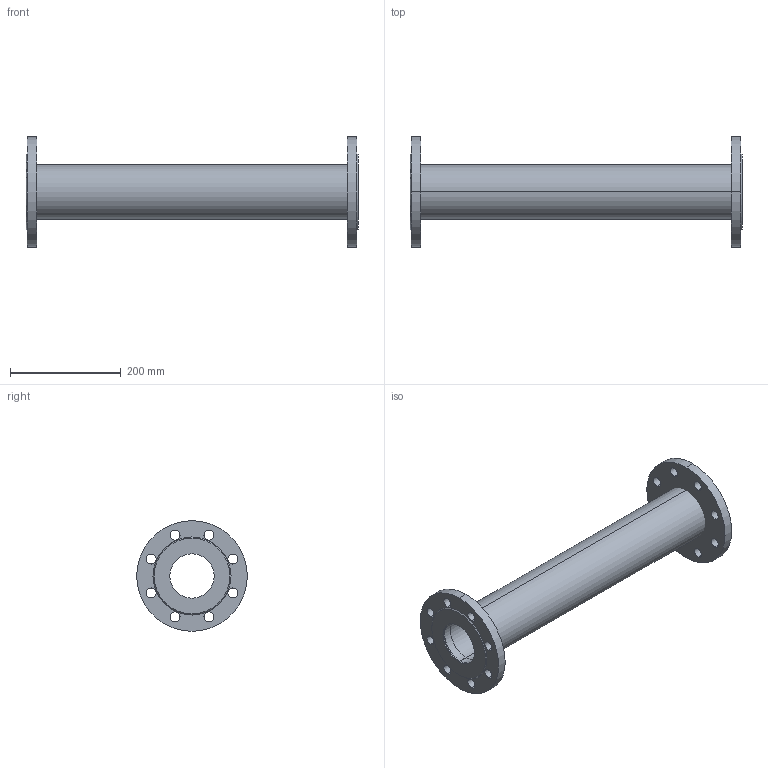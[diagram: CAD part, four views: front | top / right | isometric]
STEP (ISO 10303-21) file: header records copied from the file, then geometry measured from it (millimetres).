
FILE_DESCRIPTION(('STEP AP214'),'1');
FILE_NAME('U:/VDI-Daten/8500/8500_PN16_L600_DN80.STP','2012-06-12T14:13:03',(' '),(' '),'Spatial InterOp 3D',' ',' ');
FILE_SCHEMA(('automotive_design'));
Length unit declared in the file: millimetre
Products named in the file (5): 3D-Objekt
Bounding box: 600 x 200 x 200 mm (x, y, z)
Volume: 2358338.1 mm3; surface area: 522865.6 mm2
Topology: 5 solids, 5 shells, 62 faces, 156 edges, 104 vertices
Faces by surface type: cylinder 48, plane 10, cone 4
Entity records: 2621 total; most frequent: DIRECTION 394, CARTESIAN_POINT 327, ORIENTED_EDGE 312, AXIS2_PLACEMENT_3D 171, EDGE_CURVE 156, EDGE_LOOP 104, VERTEX_POINT 104, CIRCLE 104
